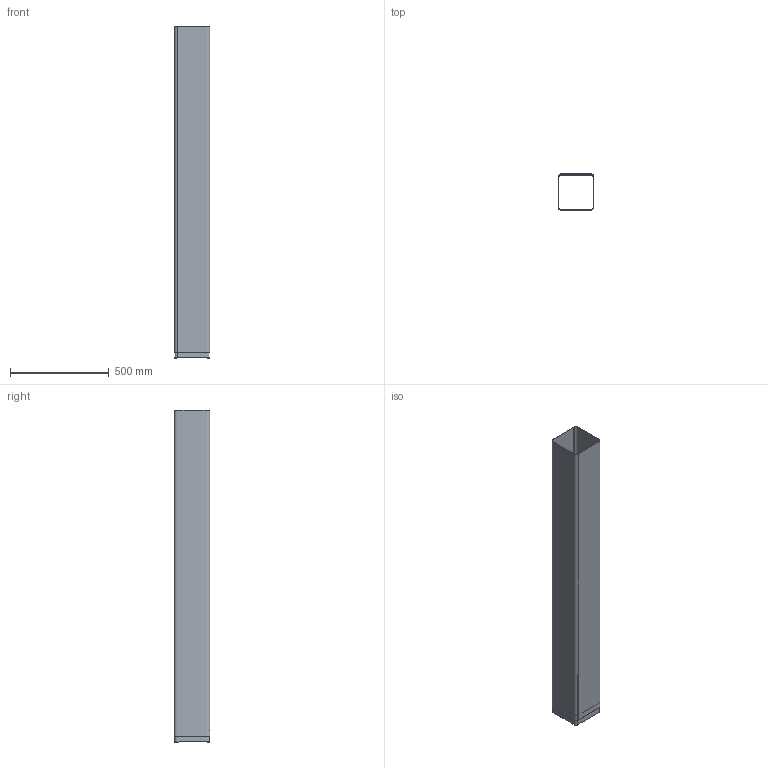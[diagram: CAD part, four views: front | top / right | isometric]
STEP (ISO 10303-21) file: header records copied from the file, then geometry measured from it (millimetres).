
FILE_DESCRIPTION(/* description */ (''),/* implementation_level */ '2;1');
FILE_NAME(/* name */ 'Труба 3',/* time_stamp */ '2025-12-09T13:27:38+03:00',/* author */ (''),/* organization */ (''),/* preprocessor_version */ 'ST-DEVELOPER v16.5',/* originating_system */ 'Rhino 7.13',/* authorisation */ '');
FILE_SCHEMA (('CONFIG_CONTROL_DESIGN','CONFIG_CONTROL_DESIGN'));
Length unit declared in the file: millimetre
Products named in the file (1): Document
Bounding box: 180 x 180 x 1680 mm (x, y, z)
Volume: 1207844 mm3; surface area: 2372417.1 mm2
Topology: 2 solids, 2 shells, 20 faces, 40 edges, 20 vertices
Faces by surface type: bspline 20
Entity records: 1244 total; most frequent: CARTESIAN_POINT 942, ORIENTED_EDGE 80, EDGE_CURVE 40, ADVANCED_FACE 20, FACE_OUTER_BOUND 20, EDGE_LOOP 20, VERTEX_POINT 20, B_SPLINE_CURVE_WITH_KNOTS 8
